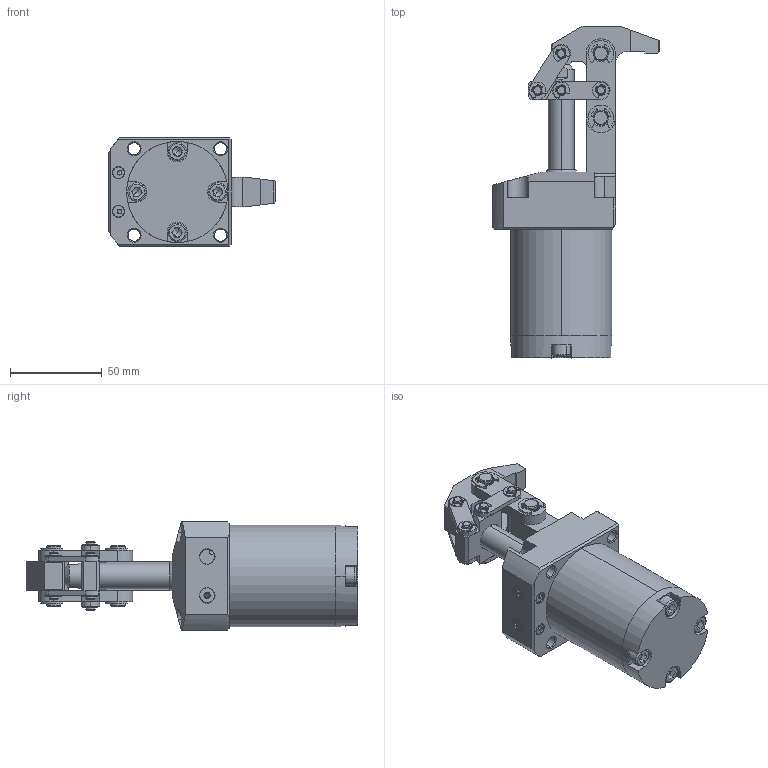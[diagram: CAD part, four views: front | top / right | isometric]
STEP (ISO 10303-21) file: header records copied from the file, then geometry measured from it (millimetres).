
FILE_DESCRIPTION (( 'STEP AP203' ), '1' );
FILE_NAME ('CLF5H-32G油压杠杆缸三维图.STEP', '2013-04-25T00:32:12', ( 'user' ), ( 'Microsoft' ), 'SwSTEP 2.0', 'SolidWorks 2010', '' );
FILE_SCHEMA (( 'CONFIG_CONTROL_DESIGN' ));
Length unit declared in the file: millimetre
Products named in the file (18): 掛极; 蟀裝2; 蟀裝1; 蟀裝3; 騵艦遠; 蚐猾; CLF5H-32G油压杠杆缸三维图; 活塞杆; 綴裔; 揤旋; 蟀裝4; 种粣1; 种粣2; 种粣3; o遠; 挡圈1; 挡圈2; Hexagon socket head cap screws GB_GB_FASTENER_SCREWS_HSHCS M6X20-S
Assembly tree (37 placements, depth 2):
  CLF5H-32G油压杠杆缸三维图
    挡圈2  x8
    蟀裝4  x2
    Hexagon socket head cap screws GB_GB_FASTENER_SCREWS_HSHCS M6X20-S  x4
    种粣2  x2
    挡圈1  x4
    种粣3  x2
    活塞杆
    綴裔
    揤旋
    蟀裝3  x2
    蚐猾
    o遠  x2
    蟀裝2
    掛极
    种粣1  x2
    騵艦遠
    蟀裝1  x2
Bounding box: 91 x 180.5 x 59 mm (x, y, z)
Volume: 285084.9 mm3; surface area: 86626 mm2
Topology: 37 solids, 37 shells, 2177 faces, 5174 edges, 3118 vertices
Faces by surface type: cylinder 1027, cone 664, plane 375, torus 78, bspline 33
Entity records: 54998 total; most frequent: CARTESIAN_POINT 27470, ORIENTED_EDGE 5430, DIRECTION 5183, EDGE_CURVE 2715, AXIS2_PLACEMENT_3D 2016, VERTEX_POINT 1691, EDGE_LOOP 1198, VECTOR 1151
